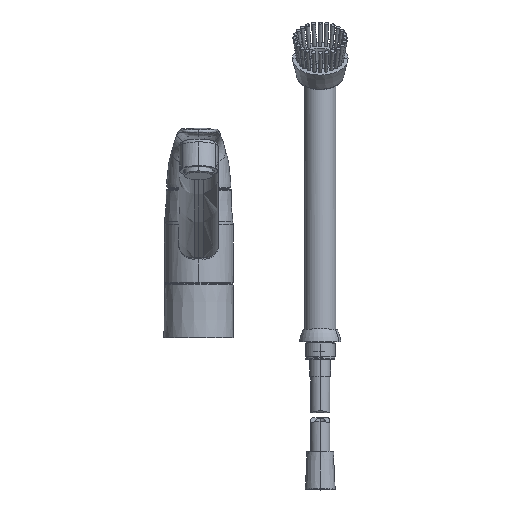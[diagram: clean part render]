
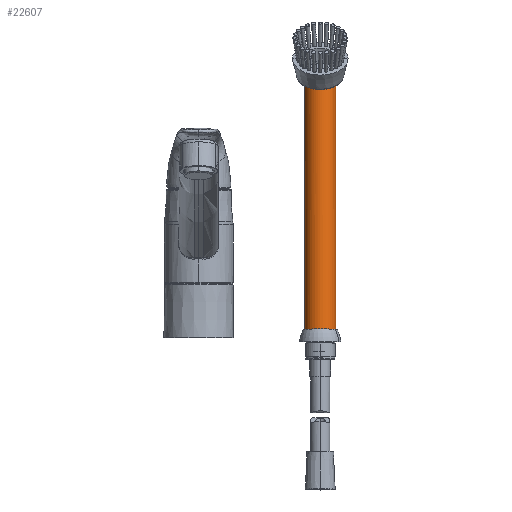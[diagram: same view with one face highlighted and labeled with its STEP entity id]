
A CAD part, top view. The second image highlights one B-rep face of the part: STEP entity #22607.
In plain terms, the highlighted cylindrical face has radius 12 mm (diameter 24 mm), a partial arc.
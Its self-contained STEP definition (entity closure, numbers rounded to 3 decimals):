
#156 = CARTESIAN_POINT ( 'NONE',  ( 105.851, 201., -70. ) ) ;
#1063 = CARTESIAN_POINT ( 'NONE',  ( 105.851, 199.78, -70. ) ) ;
#1076 = EDGE_CURVE ( 'NONE', #14027, #9926, #11601, .T. ) ;
#1167 = CARTESIAN_POINT ( 'NONE',  ( 93.851, -5., -70. ) ) ;
#1290 = AXIS2_PLACEMENT_3D ( 'NONE', #1167, #13686, #2993 ) ;
#1790 = CARTESIAN_POINT ( 'NONE',  ( 105.851, 199.78, -70. ) ) ;
#1794 = ORIENTED_EDGE ( 'NONE', *, *, #11951, .F. ) ;
#2018 = VERTEX_POINT ( 'NONE', #1063 ) ;
#2993 = DIRECTION ( 'NONE',  ( 1., 0., 0. ) ) ;
#3627 = EDGE_CURVE ( 'NONE', #2018, #14027, #4185, .T. ) ;
#3740 = CIRCLE ( 'NONE', #1290, 12. ) ;
#3766 = CARTESIAN_POINT ( 'NONE',  ( 81.851, -5., -70. ) ) ;
#3856 = CARTESIAN_POINT ( 'NONE',  ( 93.851, 201., -70. ) ) ;
#4185 =( BOUNDED_CURVE ( )  B_SPLINE_CURVE ( 3, ( #1790, #7151, #16152, #5423 ),
 .UNSPECIFIED., .F., .T. ) 
 B_SPLINE_CURVE_WITH_KNOTS ( ( 4, 4 ),
 ( 4.712, 7.854 ),
 .UNSPECIFIED. ) 
 CURVE ( )  GEOMETRIC_REPRESENTATION_ITEM ( )  RATIONAL_B_SPLINE_CURVE ( ( 1., 0.333, 0.333, 1. ) ) 
 REPRESENTATION_ITEM ( '' )  );
#5423 = CARTESIAN_POINT ( 'NONE',  ( 81.851, 199.78, -70. ) ) ;
#6160 = EDGE_LOOP ( 'NONE', ( #1794, #9195, #13833, #21438 ) ) ;
#6319 = CARTESIAN_POINT ( 'NONE',  ( 105.851, -5., -70. ) ) ;
#6992 = EDGE_CURVE ( 'NONE', #9926, #14086, #3740, .T. ) ;
#7026 = VECTOR ( 'NONE', #9107, 1000. ) ;
#7151 = CARTESIAN_POINT ( 'NONE',  ( 105.851, 182.297, -46. ) ) ;
#9107 = DIRECTION ( 'NONE',  ( 0., -1., 0. ) ) ;
#9195 = ORIENTED_EDGE ( 'NONE', *, *, #3627, .T. ) ;
#9926 = VERTEX_POINT ( 'NONE', #3766 ) ;
#11175 = FACE_OUTER_BOUND ( 'NONE', #6160, .T. ) ;
#11601 = LINE ( 'NONE', #12896, #12166 ) ;
#11783 = LINE ( 'NONE', #156, #7026 ) ;
#11951 = EDGE_CURVE ( 'NONE', #2018, #14086, #11783, .T. ) ;
#12166 = VECTOR ( 'NONE', #12232, 1000. ) ;
#12232 = DIRECTION ( 'NONE',  ( 0., -1., 0. ) ) ;
#12896 = CARTESIAN_POINT ( 'NONE',  ( 81.851, 201., -70. ) ) ;
#13686 = DIRECTION ( 'NONE',  ( 0., 1., 0. ) ) ;
#13833 = ORIENTED_EDGE ( 'NONE', *, *, #1076, .T. ) ;
#14027 = VERTEX_POINT ( 'NONE', #20218 ) ;
#14086 = VERTEX_POINT ( 'NONE', #6319 ) ;
#15405 = CYLINDRICAL_SURFACE ( 'NONE', #16979, 12. ) ;
#16152 = CARTESIAN_POINT ( 'NONE',  ( 81.851, 182.297, -46. ) ) ;
#16464 = DIRECTION ( 'NONE',  ( 0., -1., 0. ) ) ;
#16979 = AXIS2_PLACEMENT_3D ( 'NONE', #3856, #16464, #19966 ) ;
#19966 = DIRECTION ( 'NONE',  ( -1., 0., 0. ) ) ;
#20218 = CARTESIAN_POINT ( 'NONE',  ( 81.851, 199.78, -70. ) ) ;
#21438 = ORIENTED_EDGE ( 'NONE', *, *, #6992, .T. ) ;
#22607 = ADVANCED_FACE ( 'NONE', ( #11175 ), #15405, .T. ) ;
